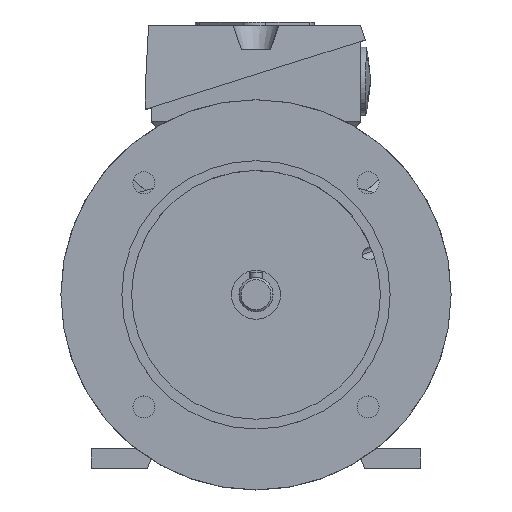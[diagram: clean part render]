
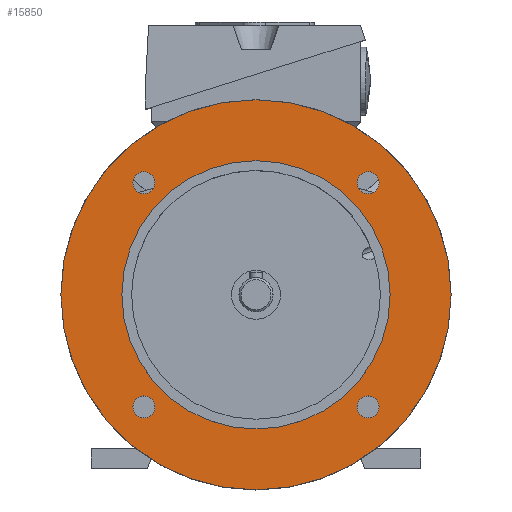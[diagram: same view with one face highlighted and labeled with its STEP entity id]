
A CAD part, top view. The second image highlights one B-rep face of the part: STEP entity #15850.
In plain terms, the highlighted planar face has unit normal (0, 0, 1).
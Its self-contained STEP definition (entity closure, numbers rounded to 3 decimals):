
#60 = EDGE_CURVE ( 'NONE', #4043, #298, #6983, .T. ) ;
#92 = CARTESIAN_POINT ( 'NONE',  ( 45.962, 45.962, 11. ) ) ;
#226 = DIRECTION ( 'NONE',  ( 1., 0., 0. ) ) ;
#298 = VERTEX_POINT ( 'NONE', #8903 ) ;
#353 = CARTESIAN_POINT ( 'NONE',  ( 41.462, 45.962, 11. ) ) ;
#464 = DIRECTION ( 'NONE',  ( 0., 0., 1. ) ) ;
#566 = CIRCLE ( 'NONE', #13631, 55. ) ;
#736 = CARTESIAN_POINT ( 'NONE',  ( -41.462, -45.962, 11. ) ) ;
#905 = ORIENTED_EDGE ( 'NONE', *, *, #10171, .F. ) ;
#1002 = CARTESIAN_POINT ( 'NONE',  ( 50.462, 45.962, 11. ) ) ;
#1202 = DIRECTION ( 'NONE',  ( 0., 0., 1. ) ) ;
#1288 = EDGE_CURVE ( 'NONE', #4020, #3147, #3608, .T. ) ;
#1394 = CARTESIAN_POINT ( 'NONE',  ( -45.962, 45.962, 11. ) ) ;
#1460 = CIRCLE ( 'NONE', #6271, 4.5 ) ;
#1679 = CARTESIAN_POINT ( 'NONE',  ( -50.462, 45.962, 11. ) ) ;
#1797 = CARTESIAN_POINT ( 'NONE',  ( -45.962, -45.962, 11. ) ) ;
#1936 = CARTESIAN_POINT ( 'NONE',  ( 0., 0., 11. ) ) ;
#2106 = DIRECTION ( 'NONE',  ( -1., 0., 0. ) ) ;
#2533 = CARTESIAN_POINT ( 'NONE',  ( -50.462, -45.962, 11. ) ) ;
#2797 = CARTESIAN_POINT ( 'NONE',  ( -45.962, -45.962, 11. ) ) ;
#2884 = CARTESIAN_POINT ( 'NONE',  ( 45.962, -45.962, 11. ) ) ;
#3147 = VERTEX_POINT ( 'NONE', #353 ) ;
#3503 = AXIS2_PLACEMENT_3D ( 'NONE', #14708, #5370, #14525 ) ;
#3608 = CIRCLE ( 'NONE', #5016, 4.5 ) ;
#3773 = DIRECTION ( 'NONE',  ( -1., 0., 0. ) ) ;
#3914 = CIRCLE ( 'NONE', #4494, 55. ) ;
#4020 = VERTEX_POINT ( 'NONE', #1002 ) ;
#4043 = VERTEX_POINT ( 'NONE', #14606 ) ;
#4416 = AXIS2_PLACEMENT_3D ( 'NONE', #5195, #9550, #6535 ) ;
#4483 = AXIS2_PLACEMENT_3D ( 'NONE', #10014, #8523, #8688 ) ;
#4494 = AXIS2_PLACEMENT_3D ( 'NONE', #16819, #4641, #7320 ) ;
#4641 = DIRECTION ( 'NONE',  ( 0., 0., 1. ) ) ;
#4753 = AXIS2_PLACEMENT_3D ( 'NONE', #10708, #14816, #226 ) ;
#4915 = ORIENTED_EDGE ( 'NONE', *, *, #16162, .T. ) ;
#5016 = AXIS2_PLACEMENT_3D ( 'NONE', #15952, #1202, #3773 ) ;
#5101 = ORIENTED_EDGE ( 'NONE', *, *, #7911, .T. ) ;
#5195 = CARTESIAN_POINT ( 'NONE',  ( 45.962, -45.962, 11. ) ) ;
#5241 = ORIENTED_EDGE ( 'NONE', *, *, #13657, .F. ) ;
#5370 = DIRECTION ( 'NONE',  ( 0., 0., 1. ) ) ;
#5783 = CIRCLE ( 'NONE', #3503, 80. ) ;
#6022 = FACE_BOUND ( 'NONE', #8986, .T. ) ;
#6227 = VERTEX_POINT ( 'NONE', #1679 ) ;
#6271 = AXIS2_PLACEMENT_3D ( 'NONE', #2797, #15329, #15240 ) ;
#6535 = DIRECTION ( 'NONE',  ( 0., 1., 0. ) ) ;
#6807 = DIRECTION ( 'NONE',  ( 0., 0., 1. ) ) ;
#6983 = CIRCLE ( 'NONE', #4416, 4.5 ) ;
#7277 = FACE_BOUND ( 'NONE', #10236, .T. ) ;
#7320 = DIRECTION ( 'NONE',  ( 1., 0., 0. ) ) ;
#7439 = DIRECTION ( 'NONE',  ( 1., 0., 0. ) ) ;
#7522 = PLANE ( 'NONE',  #4483 ) ;
#7743 = ORIENTED_EDGE ( 'NONE', *, *, #14737, .F. ) ;
#7911 = EDGE_CURVE ( 'NONE', #13698, #16279, #5783, .T. ) ;
#7966 = EDGE_LOOP ( 'NONE', ( #16262, #9904 ) ) ;
#8106 = EDGE_CURVE ( 'NONE', #298, #4043, #16510, .T. ) ;
#8113 = EDGE_CURVE ( 'NONE', #10698, #8225, #1460, .T. ) ;
#8173 = CIRCLE ( 'NONE', #10429, 4.5 ) ;
#8225 = VERTEX_POINT ( 'NONE', #736 ) ;
#8523 = DIRECTION ( 'NONE',  ( 0., 0., -1. ) ) ;
#8688 = DIRECTION ( 'NONE',  ( -1., 0., 0. ) ) ;
#8903 = CARTESIAN_POINT ( 'NONE',  ( 50.462, -45.962, 11. ) ) ;
#8986 = EDGE_LOOP ( 'NONE', ( #17276, #5241 ) ) ;
#9053 = DIRECTION ( 'NONE',  ( 0., -1., 0. ) ) ;
#9438 = ORIENTED_EDGE ( 'NONE', *, *, #60, .F. ) ;
#9453 = CIRCLE ( 'NONE', #11713, 4.5 ) ;
#9516 = ORIENTED_EDGE ( 'NONE', *, *, #16699, .F. ) ;
#9550 = DIRECTION ( 'NONE',  ( 0., 0., 1. ) ) ;
#9605 = FACE_OUTER_BOUND ( 'NONE', #11597, .T. ) ;
#9903 = DIRECTION ( 'NONE',  ( 0., 1., 0. ) ) ;
#9904 = ORIENTED_EDGE ( 'NONE', *, *, #15878, .F. ) ;
#10014 = CARTESIAN_POINT ( 'NONE',  ( 0., 55., 11. ) ) ;
#10171 = EDGE_CURVE ( 'NONE', #8225, #10698, #9453, .T. ) ;
#10236 = EDGE_LOOP ( 'NONE', ( #15068, #9438 ) ) ;
#10271 = EDGE_CURVE ( 'NONE', #12516, #6227, #16266, .T. ) ;
#10429 = AXIS2_PLACEMENT_3D ( 'NONE', #92, #15533, #2106 ) ;
#10698 = VERTEX_POINT ( 'NONE', #2533 ) ;
#10708 = CARTESIAN_POINT ( 'NONE',  ( 0., 0., 11. ) ) ;
#10737 = CIRCLE ( 'NONE', #15279, 4.5 ) ;
#10808 = VERTEX_POINT ( 'NONE', #12670 ) ;
#11107 = AXIS2_PLACEMENT_3D ( 'NONE', #2884, #6807, #9903 ) ;
#11597 = EDGE_LOOP ( 'NONE', ( #4915, #5101 ) ) ;
#11687 = EDGE_LOOP ( 'NONE', ( #9516, #7743 ) ) ;
#11713 = AXIS2_PLACEMENT_3D ( 'NONE', #1797, #464, #12827 ) ;
#12429 = CIRCLE ( 'NONE', #4753, 80. ) ;
#12516 = VERTEX_POINT ( 'NONE', #16896 ) ;
#12670 = CARTESIAN_POINT ( 'NONE',  ( -55., 0., 11. ) ) ;
#12827 = DIRECTION ( 'NONE',  ( 1., 0., 0. ) ) ;
#13038 = EDGE_LOOP ( 'NONE', ( #905, #17195 ) ) ;
#13545 = CARTESIAN_POINT ( 'NONE',  ( -80., 0., 11. ) ) ;
#13631 = AXIS2_PLACEMENT_3D ( 'NONE', #1936, #14024, #7439 ) ;
#13657 = EDGE_CURVE ( 'NONE', #6227, #12516, #10737, .T. ) ;
#13698 = VERTEX_POINT ( 'NONE', #13545 ) ;
#14024 = DIRECTION ( 'NONE',  ( 0., 0., 1. ) ) ;
#14204 = FACE_BOUND ( 'NONE', #7966, .T. ) ;
#14279 = FACE_BOUND ( 'NONE', #13038, .T. ) ;
#14396 = VERTEX_POINT ( 'NONE', #16784 ) ;
#14525 = DIRECTION ( 'NONE',  ( 1., 0., 0. ) ) ;
#14606 = CARTESIAN_POINT ( 'NONE',  ( 41.462, -45.962, 11. ) ) ;
#14708 = CARTESIAN_POINT ( 'NONE',  ( 0., 0., 11. ) ) ;
#14737 = EDGE_CURVE ( 'NONE', #10808, #14396, #566, .T. ) ;
#14816 = DIRECTION ( 'NONE',  ( 0., 0., 1. ) ) ;
#15068 = ORIENTED_EDGE ( 'NONE', *, *, #8106, .F. ) ;
#15146 = AXIS2_PLACEMENT_3D ( 'NONE', #17054, #15730, #9053 ) ;
#15167 = DIRECTION ( 'NONE',  ( 0., -1., 0. ) ) ;
#15240 = DIRECTION ( 'NONE',  ( 1., 0., 0. ) ) ;
#15279 = AXIS2_PLACEMENT_3D ( 'NONE', #1394, #16502, #15167 ) ;
#15329 = DIRECTION ( 'NONE',  ( 0., 0., 1. ) ) ;
#15533 = DIRECTION ( 'NONE',  ( 0., 0., 1. ) ) ;
#15730 = DIRECTION ( 'NONE',  ( 0., 0., 1. ) ) ;
#15850 = ADVANCED_FACE ( 'NONE', ( #7277, #14204, #6022, #14279, #16354, #9605 ), #7522, .F. ) ;
#15878 = EDGE_CURVE ( 'NONE', #3147, #4020, #8173, .T. ) ;
#15952 = CARTESIAN_POINT ( 'NONE',  ( 45.962, 45.962, 11. ) ) ;
#16162 = EDGE_CURVE ( 'NONE', #16279, #13698, #12429, .T. ) ;
#16262 = ORIENTED_EDGE ( 'NONE', *, *, #1288, .F. ) ;
#16266 = CIRCLE ( 'NONE', #15146, 4.5 ) ;
#16279 = VERTEX_POINT ( 'NONE', #16836 ) ;
#16354 = FACE_BOUND ( 'NONE', #11687, .T. ) ;
#16502 = DIRECTION ( 'NONE',  ( 0., 0., 1. ) ) ;
#16510 = CIRCLE ( 'NONE', #11107, 4.5 ) ;
#16699 = EDGE_CURVE ( 'NONE', #14396, #10808, #3914, .T. ) ;
#16784 = CARTESIAN_POINT ( 'NONE',  ( 55., 0., 11. ) ) ;
#16819 = CARTESIAN_POINT ( 'NONE',  ( 0., 0., 11. ) ) ;
#16836 = CARTESIAN_POINT ( 'NONE',  ( 80., 0., 11. ) ) ;
#16896 = CARTESIAN_POINT ( 'NONE',  ( -41.462, 45.962, 11. ) ) ;
#17054 = CARTESIAN_POINT ( 'NONE',  ( -45.962, 45.962, 11. ) ) ;
#17195 = ORIENTED_EDGE ( 'NONE', *, *, #8113, .F. ) ;
#17276 = ORIENTED_EDGE ( 'NONE', *, *, #10271, .F. ) ;
